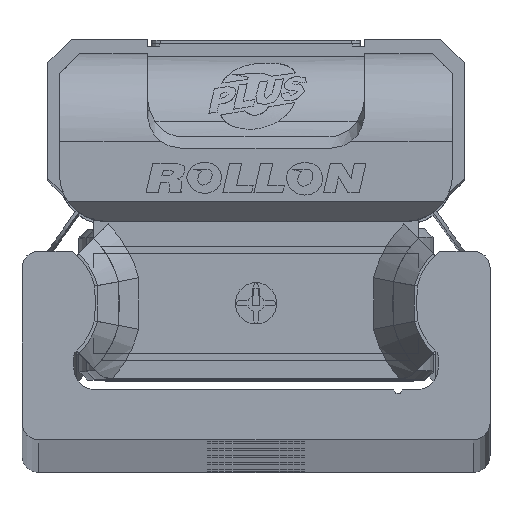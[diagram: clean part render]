
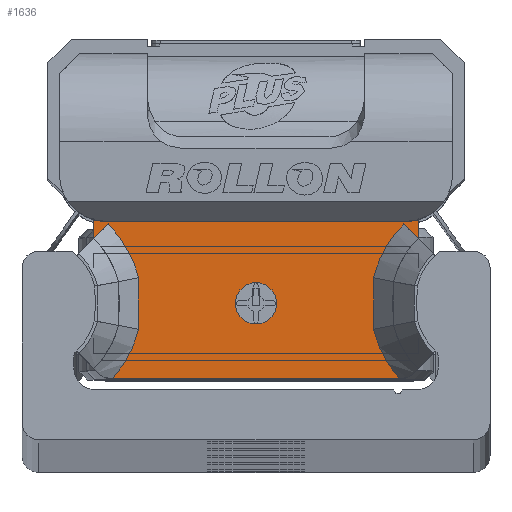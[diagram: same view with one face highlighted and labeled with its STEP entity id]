
A CAD part, top view. The second image highlights one B-rep face of the part: STEP entity #1636.
In plain terms, the highlighted planar face has unit normal (0, 0, 1) as drawn and (0, 0, -1) by its records, which use the part's own axes.
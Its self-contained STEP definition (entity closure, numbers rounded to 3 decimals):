
#1636 = ADVANCED_FACE( '', ( #3557, #3558 ), #3559, .F. );
#3557 = FACE_BOUND( '', #5850, .T. );
#3558 = FACE_OUTER_BOUND( '', #5851, .T. );
#3559 = PLANE( '', #5852 );
#5850 = EDGE_LOOP( '', ( #10237 ) );
#5851 = EDGE_LOOP( '', ( #10238, #10239, #10240, #10241, #10242, #10243, #10244, #10245, #10246, #10247, #10248, #10249, #10250, #10251 ) );
#5852 = AXIS2_PLACEMENT_3D( '', #10252, #10253, #10254 );
#10237 = ORIENTED_EDGE( '', *, *, #13289, .T. );
#10238 = ORIENTED_EDGE( '', *, *, #13488, .F. );
#10239 = ORIENTED_EDGE( '', *, *, #13024, .T. );
#10240 = ORIENTED_EDGE( '', *, *, #12475, .T. );
#10241 = ORIENTED_EDGE( '', *, *, #14065, .T. );
#10242 = ORIENTED_EDGE( '', *, *, #13431, .T. );
#10243 = ORIENTED_EDGE( '', *, *, #13703, .T. );
#10244 = ORIENTED_EDGE( '', *, *, #13406, .T. );
#10245 = ORIENTED_EDGE( '', *, *, #14066, .T. );
#10246 = ORIENTED_EDGE( '', *, *, #12395, .T. );
#10247 = ORIENTED_EDGE( '', *, *, #13477, .T. );
#10248 = ORIENTED_EDGE( '', *, *, #13497, .T. );
#10249 = ORIENTED_EDGE( '', *, *, #14053, .T. );
#10250 = ORIENTED_EDGE( '', *, *, #13075, .T. );
#10251 = ORIENTED_EDGE( '', *, *, #14067, .T. );
#10252 = CARTESIAN_POINT( '', ( 9.7, 4.89, -10.6 ) );
#10253 = DIRECTION( '', ( 0., 0., 1. ) );
#10254 = DIRECTION( '', ( 1., 0., 0. ) );
#12395 = EDGE_CURVE( '', #14651, #14648, #14652, .T. );
#12475 = EDGE_CURVE( '', #14784, #14788, #14790, .T. );
#13024 = EDGE_CURVE( '', #15718, #14784, #15719, .T. );
#13075 = EDGE_CURVE( '', #15798, #15799, #15800, .T. );
#13289 = EDGE_CURVE( '', #16143, #16143, #16144, .T. );
#13406 = EDGE_CURVE( '', #16319, #16320, #16321, .T. );
#13431 = EDGE_CURVE( '', #16359, #14915, #16360, .T. );
#13477 = EDGE_CURVE( '', #14648, #16427, #16429, .T. );
#13488 = EDGE_CURVE( '', #15718, #16444, #16445, .T. );
#13497 = EDGE_CURVE( '', #16427, #16457, #16459, .T. );
#13703 = EDGE_CURVE( '', #14915, #16319, #16767, .T. );
#14053 = EDGE_CURVE( '', #16457, #15798, #17244, .T. );
#14065 = EDGE_CURVE( '', #14788, #16359, #17262, .T. );
#14066 = EDGE_CURVE( '', #16320, #14651, #17263, .T. );
#14067 = EDGE_CURVE( '', #15799, #16444, #17264, .T. );
#14648 = VERTEX_POINT( '', #17960 );
#14651 = VERTEX_POINT( '', #17968 );
#14652 = B_SPLINE_CURVE_WITH_KNOTS( '', 2, ( #17969, #17970, #17971 ), .UNSPECIFIED., .F., .F., ( 3, 3 ), ( 0., 1. ), .UNSPECIFIED. );
#14784 = VERTEX_POINT( '', #18145 );
#14788 = VERTEX_POINT( '', #18151 );
#14790 = LINE( '', #18154, #18155 );
#14915 = VERTEX_POINT( '', #18326 );
#15718 = VERTEX_POINT( '', #19494 );
#15719 = CIRCLE( '', #19495, 2.8 );
#15798 = VERTEX_POINT( '', #19626 );
#15799 = VERTEX_POINT( '', #19627 );
#15800 = B_SPLINE_CURVE_WITH_KNOTS( '', 2, ( #19628, #19629, #19630 ), .UNSPECIFIED., .F., .F., ( 3, 3 ), ( 0., 1. ), .UNSPECIFIED. );
#16143 = VERTEX_POINT( '', #20103 );
#16144 = CIRCLE( '', #20104, 1.25 );
#16319 = VERTEX_POINT( '', #20327 );
#16320 = VERTEX_POINT( '', #20328 );
#16321 = B_SPLINE_CURVE_WITH_KNOTS( '', 2, ( #20329, #20330, #20331, #20332, #20333 ), .UNSPECIFIED., .F., .F., ( 3, 2, 3 ), ( 0., 0.5, 1. ), .UNSPECIFIED. );
#16359 = VERTEX_POINT( '', #20383 );
#16360 = LINE( '', #20384, #20385 );
#16427 = VERTEX_POINT( '', #20470 );
#16429 = LINE( '', #20473, #20474 );
#16444 = VERTEX_POINT( '', #20494 );
#16445 = LINE( '', #20495, #20496 );
#16457 = VERTEX_POINT( '', #20522 );
#16459 = B_SPLINE_CURVE_WITH_KNOTS( '', 2, ( #20525, #20526, #20527 ), .UNSPECIFIED., .F., .F., ( 3, 3 ), ( 0.1, 1. ), .UNSPECIFIED. );
#16767 = LINE( '', #20978, #20979 );
#17244 = B_SPLINE_CURVE_WITH_KNOTS( '', 2, ( #21692, #21693, #21694 ), .UNSPECIFIED., .F., .F., ( 3, 3 ), ( 0., 1. ), .UNSPECIFIED. );
#17262 = CIRCLE( '', #21715, 2.8 );
#17263 = B_SPLINE_CURVE_WITH_KNOTS( '', 2, ( #21716, #21717, #21718 ), .UNSPECIFIED., .F., .F., ( 3, 3 ), ( 0., 1. ), .UNSPECIFIED. );
#17264 = LINE( '', #21719, #21720 );
#17960 = CARTESIAN_POINT( '', ( 8.59, -4.893, -10.6 ) );
#17968 = CARTESIAN_POINT( '', ( 7.031, -1.944, -10.6 ) );
#17969 = CARTESIAN_POINT( '', ( 7.031, -1.944, -10.6 ) );
#17970 = CARTESIAN_POINT( '', ( 7.429, -3.615, -10.6 ) );
#17971 = CARTESIAN_POINT( '', ( 8.588, -4.89, -10.6 ) );
#18145 = CARTESIAN_POINT( '', ( -8.95, 4.51, -10.6 ) );
#18151 = CARTESIAN_POINT( '', ( 8.95, 4.51, -10.6 ) );
#18154 = CARTESIAN_POINT( '', ( 9.7, 4.51, -10.6 ) );
#18155 = VECTOR( '', #22617, 1000. );
#18326 = CARTESIAN_POINT( '', ( 9.7, 3.497, -10.6 ) );
#19494 = CARTESIAN_POINT( '', ( -9.7, 4.612, -10.6 ) );
#19495 = AXIS2_PLACEMENT_3D( '', #23322, #23323, #23324 );
#19626 = CARTESIAN_POINT( '', ( -7.031, 1.144, -10.6 ) );
#19627 = CARTESIAN_POINT( '', ( -8.853, 4.366, -10.6 ) );
#19628 = CARTESIAN_POINT( '', ( -7.031, 1.144, -10.6 ) );
#19629 = CARTESIAN_POINT( '', ( -7.477, 3.018, -10.6 ) );
#19630 = CARTESIAN_POINT( '', ( -8.853, 4.366, -10.6 ) );
#20103 = CARTESIAN_POINT( '', ( 1.25, -0.39, -10.6 ) );
#20104 = AXIS2_PLACEMENT_3D( '', #23688, #23689, #23690 );
#20327 = CARTESIAN_POINT( '', ( 8.853, 4.366, -10.6 ) );
#20328 = CARTESIAN_POINT( '', ( 7.031, 1.144, -10.6 ) );
#20329 = CARTESIAN_POINT( '', ( 8.853, 4.366, -10.6 ) );
#20330 = CARTESIAN_POINT( '', ( 8.182, 3.708, -10.6 ) );
#20331 = CARTESIAN_POINT( '', ( 7.715, 2.883, -10.6 ) );
#20332 = CARTESIAN_POINT( '', ( 7.249, 2.058, -10.6 ) );
#20333 = CARTESIAN_POINT( '', ( 7.031, 1.144, -10.6 ) );
#20383 = CARTESIAN_POINT( '', ( 9.7, 4.612, -10.6 ) );
#20384 = CARTESIAN_POINT( '', ( 9.7, 4.89, -10.6 ) );
#20385 = VECTOR( '', #23875, 1000. );
#20470 = CARTESIAN_POINT( '', ( -8.59, -4.893, -10.6 ) );
#20473 = CARTESIAN_POINT( '', ( 9.7, -4.89, -10.6 ) );
#20474 = VECTOR( '', #23946, 1000. );
#20494 = CARTESIAN_POINT( '', ( -9.7, 3.494, -10.6 ) );
#20495 = CARTESIAN_POINT( '', ( -9.7, 4.89, -10.6 ) );
#20496 = VECTOR( '', #23964, 1000. );
#20522 = CARTESIAN_POINT( '', ( -7.031, -1.944, -10.6 ) );
#20525 = CARTESIAN_POINT( '', ( -8.587, -4.89, -10.6 ) );
#20526 = CARTESIAN_POINT( '', ( -7.432, -3.63, -10.6 ) );
#20527 = CARTESIAN_POINT( '', ( -7.031, -1.944, -10.6 ) );
#20978 = CARTESIAN_POINT( '', ( 9.7, 3.501, -10.6 ) );
#20979 = VECTOR( '', #24217, 1000. );
#21692 = CARTESIAN_POINT( '', ( -7.031, -1.944, -10.6 ) );
#21693 = CARTESIAN_POINT( '', ( -6.929, -0.4, -10.6 ) );
#21694 = CARTESIAN_POINT( '', ( -7.031, 1.144, -10.6 ) );
#21715 = AXIS2_PLACEMENT_3D( '', #24733, #24734, #24735 );
#21716 = CARTESIAN_POINT( '', ( 7.031, 1.144, -10.6 ) );
#21717 = CARTESIAN_POINT( '', ( 6.929, -0.4, -10.6 ) );
#21718 = CARTESIAN_POINT( '', ( 7.031, -1.944, -10.6 ) );
#21719 = CARTESIAN_POINT( '', ( -8.853, 4.366, -10.6 ) );
#21720 = VECTOR( '', #24736, 1000. );
#22617 = DIRECTION( '', ( 1., 0., 0. ) );
#23322 = CARTESIAN_POINT( '', ( -8.95, 7.31, -10.6 ) );
#23323 = DIRECTION( '', ( 0., 0., 1. ) );
#23324 = DIRECTION( '', ( 1., 0., 0. ) );
#23688 = CARTESIAN_POINT( '', ( 0., -0.39, -10.6 ) );
#23689 = DIRECTION( '', ( 0., 0., 1. ) );
#23690 = DIRECTION( '', ( 1., 0., 0. ) );
#23875 = DIRECTION( '', ( 0., -1., 0. ) );
#23946 = DIRECTION( '', ( -1., 0., 0. ) );
#23964 = DIRECTION( '', ( 0., -1., 0. ) );
#24217 = DIRECTION( '', ( -0.7, 0.714, 0. ) );
#24733 = CARTESIAN_POINT( '', ( 8.95, 7.31, -10.6 ) );
#24734 = DIRECTION( '', ( 0., 0., 1. ) );
#24735 = DIRECTION( '', ( 1., 0., 0. ) );
#24736 = DIRECTION( '', ( -0.7, -0.714, 0. ) );
